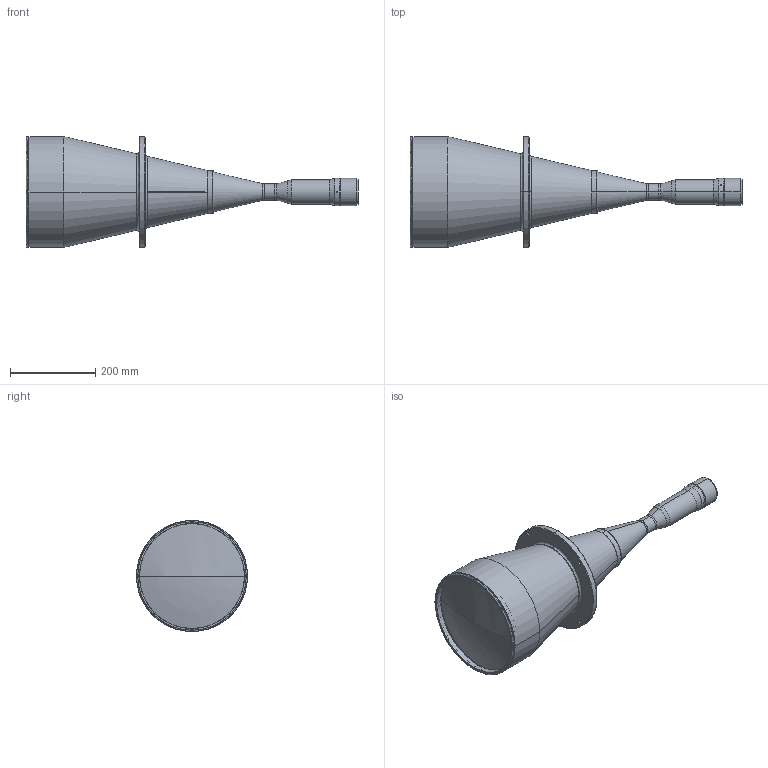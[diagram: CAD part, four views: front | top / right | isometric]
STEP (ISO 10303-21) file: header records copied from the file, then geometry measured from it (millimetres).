
FILE_DESCRIPTION(('LS-TCL-0215'),'2;1');
FILE_NAME('LS-TCL-0215.stp','2026-10-15T21:54:42',('LumaSpec Vision'),('LumaSpec Vision'),'LumaSpec Vision','LumaSpec Vision','');
FILE_SCHEMA(('AUTOMOTIVE_DESIGN { 1 0 10303 214 1 1 1 1 }'));
Length unit declared in the file: millimetre
Products named in the file (203): LumaSpec Vision
Assembly tree (202 placements, depth 2):
  LumaSpec Vision
    LumaSpec Vision
    LumaSpec Vision
    LumaSpec Vision
    LumaSpec Vision
    LumaSpec Vision
    LumaSpec Vision
    LumaSpec Vision
    LumaSpec Vision
    LumaSpec Vision
    LumaSpec Vision
    LumaSpec Vision
    LumaSpec Vision
    LumaSpec Vision
    LumaSpec Vision
    LumaSpec Vision
    LumaSpec Vision
    LumaSpec Vision
    LumaSpec Vision
    LumaSpec Vision
    LumaSpec Vision
    LumaSpec Vision
    LumaSpec Vision
    LumaSpec Vision
    LumaSpec Vision
    LumaSpec Vision
    LumaSpec Vision
    LumaSpec Vision
    LumaSpec Vision
    LumaSpec Vision
    LumaSpec Vision
    LumaSpec Vision
    LumaSpec Vision
    LumaSpec Vision
    LumaSpec Vision
    LumaSpec Vision
    LumaSpec Vision
    LumaSpec Vision
    LumaSpec Vision
    LumaSpec Vision
    LumaSpec Vision
    LumaSpec Vision
    LumaSpec Vision
    LumaSpec Vision
    LumaSpec Vision
    LumaSpec Vision
    LumaSpec Vision
    LumaSpec Vision
    LumaSpec Vision
    LumaSpec Vision
    LumaSpec Vision
    LumaSpec Vision
    LumaSpec Vision
    LumaSpec Vision
    LumaSpec Vision
    LumaSpec Vision
    LumaSpec Vision
    LumaSpec Vision
    LumaSpec Vision
    LumaSpec Vision
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Bounding box: 778.12 x 260 x 260 mm (x, y, z)
Surface area: 486042.4 mm2 (no closed solid volume)
Topology: 0 solids, 202 shells, 202 faces, 3784 edges, 3773 vertices
Faces by surface type: revolution 109, bspline 93
Entity records: 63249 total; most frequent: CARTESIAN_POINT 26011, B_SPLINE_CURVE_WITH_KNOTS 6774, ORIENTED_EDGE 3773, EDGE_CURVE 3773, VERTEX_POINT 3773, SURFACE_CURVE 3773, PCURVE 3773, DEFINITIONAL_REPRESENTATION 3773
